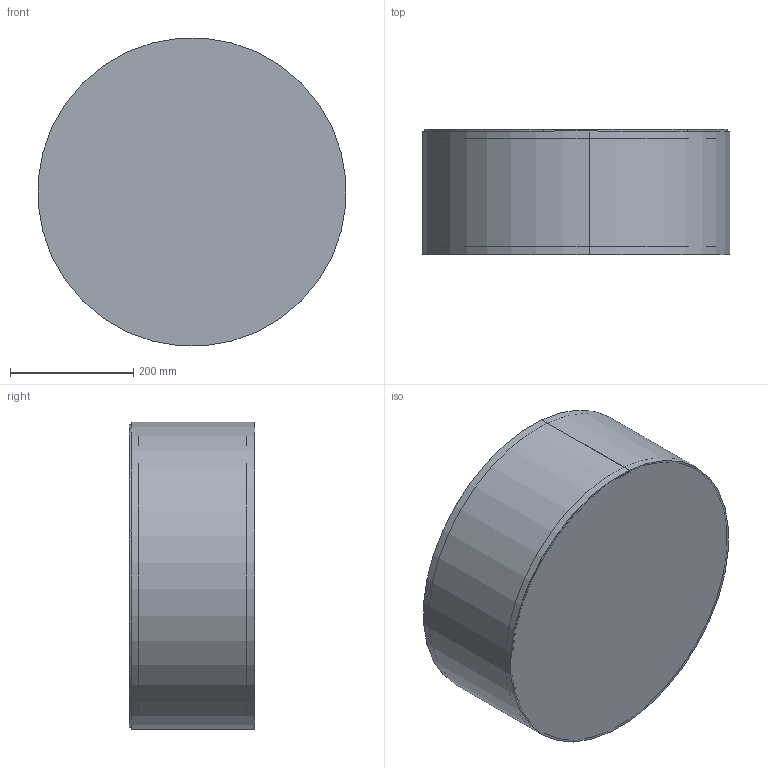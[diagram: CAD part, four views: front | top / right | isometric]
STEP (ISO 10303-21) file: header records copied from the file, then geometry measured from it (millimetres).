
FILE_DESCRIPTION (( 'STEP AP214' ), '1' );
FILE_NAME ('Hashira ceiling lamp, 240318.STEP', '2024-05-06T10:21:37', ( '' ), ( '' ), 'SwSTEP 2.0', 'SolidWorks 2022', '' );
FILE_SCHEMA (( 'AUTOMOTIVE_DESIGN' ));
Length unit declared in the file: millimetre
Products named in the file (9): 海绵圈.STEP; E27卡式灯座.STEP; 弯头.STEP; NP吸顶灯固定环.STEP; A60 bulb.STEP; Hashira ceiling lamp, 240318; NP吸顶灯罩.STEP; Hashira ceiling lamp, 240318.STEP; NP吸顶灯圆盘，240312.STEP
Assembly tree (16 placements, depth 3):
  Hashira ceiling lamp, 240318
    Hashira ceiling lamp, 240318.STEP
      NP吸顶灯罩.STEP
      NP吸顶灯固定环.STEP
      A60 bulb.STEP  x3
      NP吸顶灯圆盘，240312.STEP
      弯头.STEP  x3
      E27卡式灯座.STEP  x3
      海绵圈.STEP  x3
Bounding box: 498.1 x 203.2 x 498.1 mm (x, y, z)
Volume: 1638666.2 mm3; surface area: 1678148.9 mm2
Topology: 16 solids, 16 shells, 532 faces, 1290 edges, 802 vertices
Faces by surface type: cylinder 248, plane 140, torus 90, cone 36, sphere 12, bspline 6
Entity records: 11275 total; most frequent: CARTESIAN_POINT 3158, DIRECTION 1701, ORIENTED_EDGE 1590, EDGE_CURVE 795, AXIS2_PLACEMENT_3D 685, VERTEX_POINT 509, EDGE_LOOP 370, CIRCLE 349
